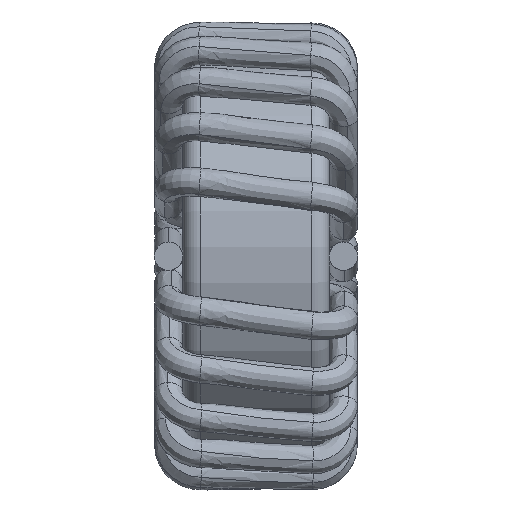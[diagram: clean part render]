
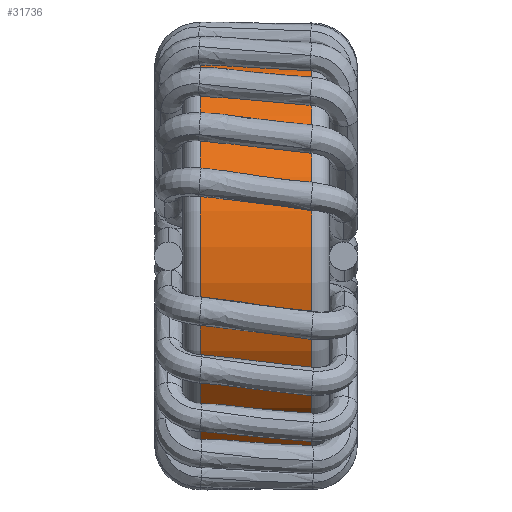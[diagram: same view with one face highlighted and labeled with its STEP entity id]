
A CAD part, left-side view. The second image highlights one B-rep face of the part: STEP entity #31736.
In plain terms, the highlighted cylindrical face has radius 11.81 mm (diameter 23.62 mm), a partial arc.
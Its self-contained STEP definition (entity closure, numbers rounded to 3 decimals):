
#216 = CARTESIAN_POINT ( 'NONE',  ( 12.423, 31.24, 31.381 ) ) ;
#1046 = ORIENTED_EDGE ( 'NONE', *, *, #8245, .T. ) ;
#1827 = EDGE_LOOP ( 'NONE', ( #5225, #2385, #35076, #1046 ) ) ;
#1979 = LINE ( 'NONE', #17962, #31750 ) ;
#2028 = CARTESIAN_POINT ( 'NONE',  ( 12.966, 23.86, 43.179 ) ) ;
#2385 = ORIENTED_EDGE ( 'NONE', *, *, #24035, .T. ) ;
#2761 = DIRECTION ( 'NONE',  ( 0., -1., 0. ) ) ;
#3295 = EDGE_CURVE ( 'NONE', #23142, #15371, #12877, .T. ) ;
#5225 = ORIENTED_EDGE ( 'NONE', *, *, #3295, .F. ) ;
#6359 = DIRECTION ( 'NONE',  ( -0.046, 0., -0.999 ) ) ;
#8245 = EDGE_CURVE ( 'NONE', #11770, #15371, #29228, .T. ) ;
#8662 = DIRECTION ( 'NONE',  ( 0.046, 0., 0.999 ) ) ;
#8932 = DIRECTION ( 'NONE',  ( 0., -1., 0. ) ) ;
#8984 = DIRECTION ( 'NONE',  ( 0.046, 0., 0.999 ) ) ;
#11329 = VERTEX_POINT ( 'NONE', #24811 ) ;
#11431 = CARTESIAN_POINT ( 'NONE',  ( 12.423, 30.24, 31.381 ) ) ;
#11496 = DIRECTION ( 'NONE',  ( 0., 1., 0. ) ) ;
#11770 = VERTEX_POINT ( 'NONE', #15792 ) ;
#12877 = LINE ( 'NONE', #14034, #14658 ) ;
#14034 = CARTESIAN_POINT ( 'NONE',  ( 12.966, 31.24, 43.179 ) ) ;
#14658 = VECTOR ( 'NONE', #22493, 1000. ) ;
#15371 = VERTEX_POINT ( 'NONE', #2028 ) ;
#15792 = CARTESIAN_POINT ( 'NONE',  ( 11.88, 23.86, 19.584 ) ) ;
#17648 = CARTESIAN_POINT ( 'NONE',  ( 12.966, 30.24, 43.179 ) ) ;
#17962 = CARTESIAN_POINT ( 'NONE',  ( 11.88, 31.24, 19.584 ) ) ;
#18754 = AXIS2_PLACEMENT_3D ( 'NONE', #23217, #11496, #8984 ) ;
#22493 = DIRECTION ( 'NONE',  ( 0., -1., 0. ) ) ;
#23142 = VERTEX_POINT ( 'NONE', #17648 ) ;
#23217 = CARTESIAN_POINT ( 'NONE',  ( 12.423, 23.86, 31.381 ) ) ;
#24035 = EDGE_CURVE ( 'NONE', #23142, #11329, #36467, .T. ) ;
#24811 = CARTESIAN_POINT ( 'NONE',  ( 11.88, 30.24, 19.584 ) ) ;
#25571 = AXIS2_PLACEMENT_3D ( 'NONE', #11431, #2761, #8662 ) ;
#29007 = CYLINDRICAL_SURFACE ( 'NONE', #30755, 11.81 ) ;
#29228 = CIRCLE ( 'NONE', #18754, 11.81 ) ;
#29457 = DIRECTION ( 'NONE',  ( 0., -1., 0. ) ) ;
#30313 = FACE_OUTER_BOUND ( 'NONE', #1827, .T. ) ;
#30667 = EDGE_CURVE ( 'NONE', #11329, #11770, #1979, .T. ) ;
#30755 = AXIS2_PLACEMENT_3D ( 'NONE', #216, #29457, #6359 ) ;
#31736 = ADVANCED_FACE ( 'NONE', ( #30313 ), #29007, .T. ) ;
#31750 = VECTOR ( 'NONE', #8932, 1000. ) ;
#35076 = ORIENTED_EDGE ( 'NONE', *, *, #30667, .T. ) ;
#36467 = CIRCLE ( 'NONE', #25571, 11.81 ) ;
